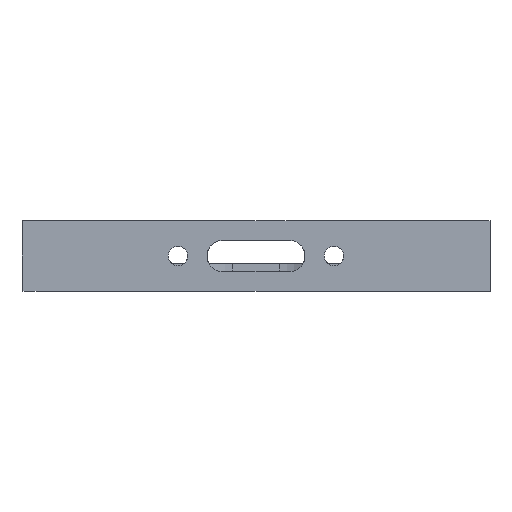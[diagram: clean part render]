
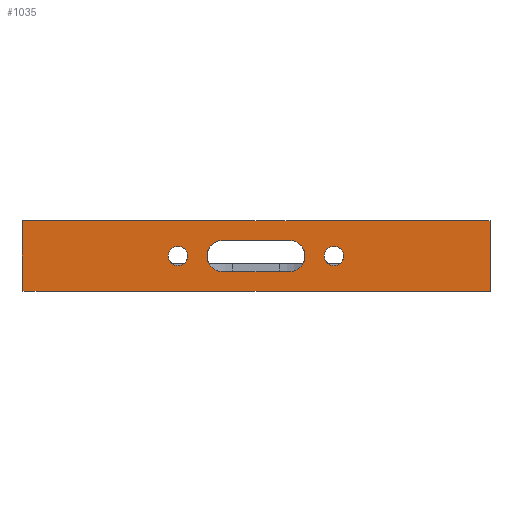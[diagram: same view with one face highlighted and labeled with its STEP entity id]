
A CAD part, front view. The second image highlights one B-rep face of the part: STEP entity #1035.
In plain terms, the highlighted planar face has unit normal (0, -1, 0).
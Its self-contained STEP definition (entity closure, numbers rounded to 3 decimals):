
#15=FACE_BOUND('',#152,.T.);
#16=FACE_BOUND('',#153,.T.);
#17=FACE_BOUND('',#154,.T.);
#49=PLANE('',#1146);
#100=FACE_OUTER_BOUND('',#151,.T.);
#151=EDGE_LOOP('',(#948,#949,#950,#951));
#152=EDGE_LOOP('',(#952));
#153=EDGE_LOOP('',(#953));
#154=EDGE_LOOP('',(#954,#955,#956,#957));
#163=LINE('',#1486,#267);
#191=LINE('',#1558,#295);
#194=LINE('',#1563,#298);
#245=LINE('',#1719,#349);
#254=LINE('',#1747,#358);
#259=LINE('',#1760,#363);
#267=VECTOR('',#1185,10.);
#295=VECTOR('',#1239,10.);
#298=VECTOR('',#1244,10.);
#349=VECTOR('',#1389,10.);
#358=VECTOR('',#1424,10.);
#363=VECTOR('',#1445,10.);
#367=CIRCLE('',#1055,1.25);
#371=CIRCLE('',#1060,1.25);
#388=CIRCLE('',#1090,2.);
#396=CIRCLE('',#1105,2.);
#413=VERTEX_POINT('',#1456);
#417=VERTEX_POINT('',#1466);
#424=VERTEX_POINT('',#1483);
#425=VERTEX_POINT('',#1485);
#455=VERTEX_POINT('',#1555);
#456=VERTEX_POINT('',#1557);
#469=VERTEX_POINT('',#1600);
#470=VERTEX_POINT('',#1602);
#487=VERTEX_POINT('',#1660);
#488=VERTEX_POINT('',#1662);
#514=EDGE_CURVE('',#413,#413,#367,.T.);
#519=EDGE_CURVE('',#417,#417,#371,.T.);
#527=EDGE_CURVE('',#425,#424,#163,.T.);
#565=EDGE_CURVE('',#456,#455,#191,.T.);
#568=EDGE_CURVE('',#455,#425,#194,.T.);
#588=EDGE_CURVE('',#470,#469,#388,.T.);
#613=EDGE_CURVE('',#488,#487,#396,.T.);
#643=EDGE_CURVE('',#469,#488,#245,.T.);
#656=EDGE_CURVE('',#487,#470,#254,.T.);
#661=EDGE_CURVE('',#424,#456,#259,.F.);
#948=ORIENTED_EDGE('',*,*,#661,.T.);
#949=ORIENTED_EDGE('',*,*,#565,.T.);
#950=ORIENTED_EDGE('',*,*,#568,.T.);
#951=ORIENTED_EDGE('',*,*,#527,.T.);
#952=ORIENTED_EDGE('',*,*,#514,.T.);
#953=ORIENTED_EDGE('',*,*,#519,.T.);
#954=ORIENTED_EDGE('',*,*,#643,.T.);
#955=ORIENTED_EDGE('',*,*,#613,.T.);
#956=ORIENTED_EDGE('',*,*,#656,.T.);
#957=ORIENTED_EDGE('',*,*,#588,.T.);
#1035=ADVANCED_FACE('',(#100,#15,#16,#17),#49,.T.);
#1055=AXIS2_PLACEMENT_3D('',#1458,#1159,#1160);
#1060=AXIS2_PLACEMENT_3D('',#1468,#1170,#1171);
#1090=AXIS2_PLACEMENT_3D('',#1603,#1282,#1283);
#1105=AXIS2_PLACEMENT_3D('',#1663,#1327,#1328);
#1146=AXIS2_PLACEMENT_3D('',#1759,#1443,#1444);
#1159=DIRECTION('center_axis',(0.,1.,0.));
#1160=DIRECTION('ref_axis',(1.,0.,0.));
#1170=DIRECTION('center_axis',(0.,1.,0.));
#1171=DIRECTION('ref_axis',(1.,0.,0.));
#1185=DIRECTION('',(0.,0.,1.));
#1239=DIRECTION('',(0.,0.,-1.));
#1244=DIRECTION('',(1.,0.,0.));
#1282=DIRECTION('center_axis',(0.,1.,0.));
#1283=DIRECTION('ref_axis',(0.,0.,
-1.));
#1327=DIRECTION('center_axis',(0.,1.,0.));
#1328=DIRECTION('ref_axis',(0.,0.,1.));
#1389=DIRECTION('',(-1.,0.,0.));
#1424=DIRECTION('',(1.,0.,0.));
#1443=DIRECTION('center_axis',(0.,-1.,0.));
#1444=DIRECTION('ref_axis',(1.,0.,0.));
#1445=DIRECTION('',(1.,0.,0.));
#1456=CARTESIAN_POINT('',(8.75,-19.5,5.));
#1458=CARTESIAN_POINT('Origin',(10.,-19.5,5.));
#1466=CARTESIAN_POINT('',(-11.25,-19.5,5.));
#1468=CARTESIAN_POINT('Origin',(-10.,-19.5,5.));
#1483=CARTESIAN_POINT('',(30.,-19.5,9.5));
#1485=CARTESIAN_POINT('',(30.,-19.5,0.5));
#1486=CARTESIAN_POINT('',(30.,-19.5,0.));
#1555=CARTESIAN_POINT('',(-30.,-19.5,0.5));
#1557=CARTESIAN_POINT('',(-30.,-19.5,9.5));
#1558=CARTESIAN_POINT('',(-30.,-19.5,0.));
#1563=CARTESIAN_POINT('',(-15.,-19.5,0.5));
#1600=CARTESIAN_POINT('',(4.279,-19.5,3.));
#1602=CARTESIAN_POINT('',(4.279,-19.5,7.));
#1603=CARTESIAN_POINT('Origin',(4.279,-19.5,5.));
#1660=CARTESIAN_POINT('',(-4.279,-19.5,7.));
#1662=CARTESIAN_POINT('',(-4.279,-19.5,3.));
#1663=CARTESIAN_POINT('Origin',(-4.279,-19.5,5.));
#1719=CARTESIAN_POINT('',(-12.861,-19.5,3.));
#1747=CARTESIAN_POINT('',(-17.139,-19.5,7.));
#1759=CARTESIAN_POINT('Origin',(-30.,-19.5,0.));
#1760=CARTESIAN_POINT('',(-15.,-19.5,9.5));
